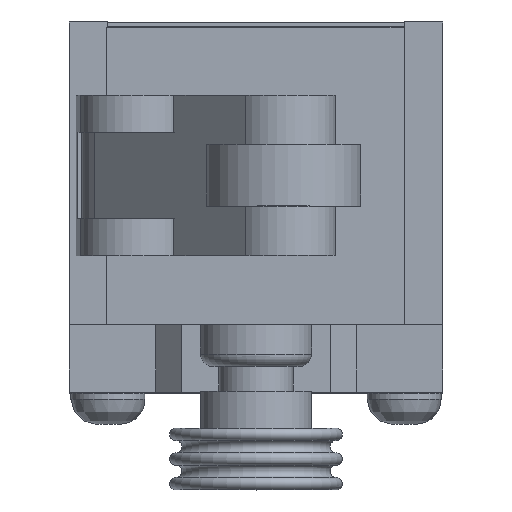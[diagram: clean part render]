
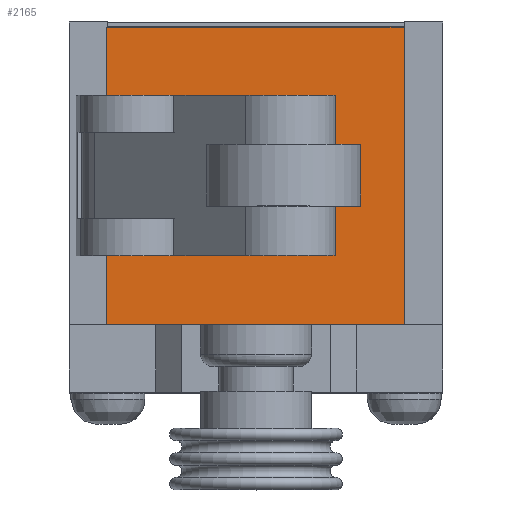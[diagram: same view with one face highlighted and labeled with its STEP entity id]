
A CAD part, top view. The second image highlights one B-rep face of the part: STEP entity #2165.
In plain terms, the highlighted planar face has unit normal (0, 0, 1).
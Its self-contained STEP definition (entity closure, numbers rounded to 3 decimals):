
#1687=CARTESIAN_POINT('',(5.605,6.05,67.));
#1688=VERTEX_POINT('',#1687);
#1730=CARTESIAN_POINT('',(5.605,-0.95,67.));
#1731=VERTEX_POINT('',#1730);
#1745=CARTESIAN_POINT('',(5.605,-0.95,67.));
#1746=DIRECTION('',(0.0,1.0,0.0));
#1747=VECTOR('',#1746,7.);
#1748=LINE('',#1745,#1747);
#1749=EDGE_CURVE('',#1731,#1688,#1748,.T.);
#1857=CARTESIAN_POINT('',(5.605,9.05,67.));
#1858=VERTEX_POINT('',#1857);
#1865=CARTESIAN_POINT('',(5.605,6.05,67.));
#1866=DIRECTION('',(0.0,1.0,0.0));
#1867=VECTOR('',#1866,3.);
#1868=LINE('',#1865,#1867);
#1869=EDGE_CURVE('',#1688,#1858,#1868,.T.);
#1880=CARTESIAN_POINT('',(5.605,-3.95,67.));
#1881=VERTEX_POINT('',#1880);
#1882=CARTESIAN_POINT('',(5.605,-3.95,67.));
#1883=DIRECTION('',(0.0,1.0,0.0));
#1884=VECTOR('',#1883,3.);
#1885=LINE('',#1882,#1884);
#1886=EDGE_CURVE('',#1881,#1731,#1885,.T.);
#1914=CARTESIAN_POINT('',(4.0,2.55,67.));
#1915=VERTEX_POINT('',#1914);
#1916=CARTESIAN_POINT('',(0.0,2.55,67.));
#1917=DIRECTION('',(0.0,0.0,-1.0));
#1918=DIRECTION('',(-1.0,0.0,0.0));
#1919=AXIS2_PLACEMENT_3D('',#1916,#1917,#1918);
#1920=CIRCLE('',#1919,4.0);
#1921=EDGE_CURVE('',#1915,#1915,#1920,.T.);
#1971=CARTESIAN_POINT('',(12.05,9.05,67.));
#1972=VERTEX_POINT('',#1971);
#1979=CARTESIAN_POINT('',(5.605,9.05,67.));
#1980=DIRECTION('',(1.0,0.0,0.0));
#1981=VECTOR('',#1980,6.445);
#1982=LINE('',#1979,#1981);
#1983=EDGE_CURVE('',#1858,#1972,#1982,.T.);
#2090=CARTESIAN_POINT('',(12.05,-3.95,67.));
#2091=VERTEX_POINT('',#2090);
#2092=CARTESIAN_POINT('',(12.05,-3.95,67.));
#2093=DIRECTION('',(-1.0,0.0,0.0));
#2094=VECTOR('',#2093,6.445);
#2095=LINE('',#2092,#2094);
#2096=EDGE_CURVE('',#2091,#1881,#2095,.T.);
#2112=CARTESIAN_POINT('',(0.,2.55,67.));
#2113=DIRECTION('',(0.0,0.0,1.0));
#2114=DIRECTION('',(1.0,0.0,0.0));
#2115=AXIS2_PLACEMENT_3D('',#2112,#2113,#2114);
#2116=PLANE('',#2115);
#2117=ORIENTED_EDGE('',*,*,#2096,.T.);
#2118=ORIENTED_EDGE('',*,*,#1886,.T.);
#2119=ORIENTED_EDGE('',*,*,#1749,.T.);
#2120=ORIENTED_EDGE('',*,*,#1869,.T.);
#2121=ORIENTED_EDGE('',*,*,#1983,.T.);
#2122=CARTESIAN_POINT('',(12.05,14.6,67.));
#2123=VERTEX_POINT('',#2122);
#2124=CARTESIAN_POINT('',(12.05,14.6,67.0));
#2125=DIRECTION('',(0.0,-1.0,0.0));
#2126=VECTOR('',#2125,5.55);
#2127=LINE('',#2124,#2126);
#2128=EDGE_CURVE('',#2123,#1972,#2127,.T.);
#2129=ORIENTED_EDGE('',*,*,#2128,.F.);
#2130=CARTESIAN_POINT('',(-12.05,14.6,67.));
#2131=VERTEX_POINT('',#2130);
#2132=CARTESIAN_POINT('',(-12.05,14.6,67.0));
#2133=DIRECTION('',(1.0,0.0,0.0));
#2134=VECTOR('',#2133,24.1);
#2135=LINE('',#2132,#2134);
#2136=EDGE_CURVE('',#2131,#2123,#2135,.T.);
#2137=ORIENTED_EDGE('',*,*,#2136,.F.);
#2138=CARTESIAN_POINT('',(-12.05,-9.5,67.));
#2139=VERTEX_POINT('',#2138);
#2140=CARTESIAN_POINT('',(-12.05,-9.5,67.0));
#2141=DIRECTION('',(0.0,1.0,0.0));
#2142=VECTOR('',#2141,24.1);
#2143=LINE('',#2140,#2142);
#2144=EDGE_CURVE('',#2139,#2131,#2143,.T.);
#2145=ORIENTED_EDGE('',*,*,#2144,.F.);
#2146=CARTESIAN_POINT('',(12.05,-9.5,67.));
#2147=VERTEX_POINT('',#2146);
#2148=CARTESIAN_POINT('',(12.05,-9.5,67.0));
#2149=DIRECTION('',(-1.0,0.0,0.0));
#2150=VECTOR('',#2149,24.1);
#2151=LINE('',#2148,#2150);
#2152=EDGE_CURVE('',#2147,#2139,#2151,.T.);
#2153=ORIENTED_EDGE('',*,*,#2152,.F.);
#2154=CARTESIAN_POINT('',(12.05,-3.95,67.0));
#2155=DIRECTION('',(0.0,-1.0,0.0));
#2156=VECTOR('',#2155,5.55);
#2157=LINE('',#2154,#2156);
#2158=EDGE_CURVE('',#2091,#2147,#2157,.T.);
#2159=ORIENTED_EDGE('',*,*,#2158,.F.);
#2160=EDGE_LOOP('',(#2117,#2118,#2119,#2120,#2121,#2129,#2137,#2145,#2153,#2159));
#2161=FACE_OUTER_BOUND('',#2160,.T.);
#2162=ORIENTED_EDGE('',*,*,#1921,.T.);
#2163=EDGE_LOOP('',(#2162));
#2164=FACE_BOUND('',#2163,.T.);
#2165=ADVANCED_FACE('',(#2161,#2164),#2116,.T.);
